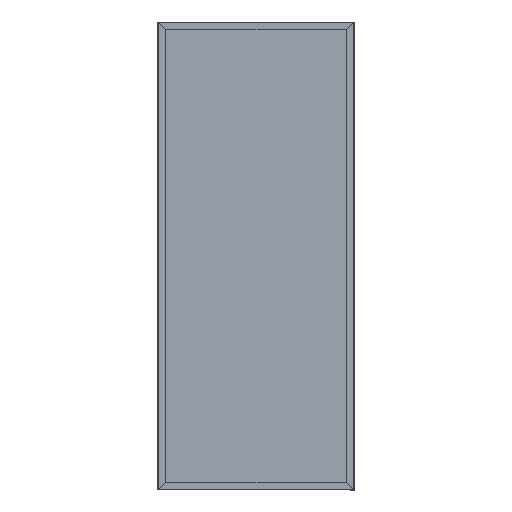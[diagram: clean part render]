
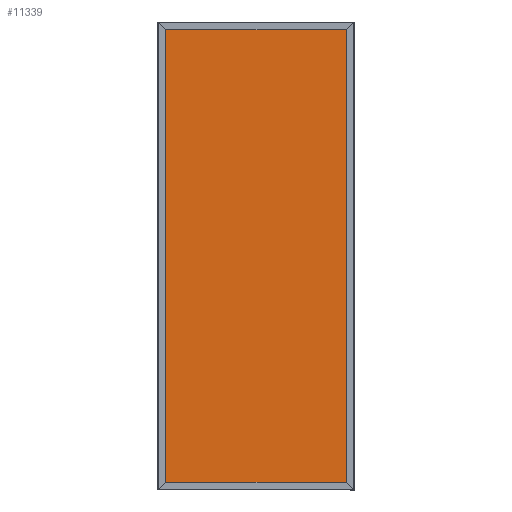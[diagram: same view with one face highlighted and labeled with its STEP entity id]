
A CAD part, top view. The second image highlights one B-rep face of the part: STEP entity #11339.
In plain terms, the highlighted planar face has unit normal (0, 0, 1).
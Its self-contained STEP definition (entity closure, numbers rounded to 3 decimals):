
#22 = DIRECTION ( 'NONE',  ( 0., 1., 0. ) ) ;
#27 = VECTOR ( 'NONE', #11553, 1000. ) ;
#1088 = VECTOR ( 'NONE', #22, 1000. ) ;
#1417 = DIRECTION ( 'NONE',  ( -1., 0., 0. ) ) ;
#3328 = DIRECTION ( 'NONE',  ( 0., 0., -1. ) ) ;
#3557 = EDGE_CURVE ( 'NONE', #18324, #7303, #9788, .T. ) ;
#5207 = LINE ( 'NONE', #26145, #26858 ) ;
#5378 = EDGE_CURVE ( 'NONE', #25580, #24678, #12900, .T. ) ;
#6792 = CARTESIAN_POINT ( 'NONE',  ( -465.07, 1162.2, -13.25 ) ) ;
#7303 = VERTEX_POINT ( 'NONE', #6792 ) ;
#9555 = EDGE_LOOP ( 'NONE', ( #23337, #16988, #15088, #17224 ) ) ;
#9788 = LINE ( 'NONE', #10061, #27 ) ;
#9961 = CARTESIAN_POINT ( 'NONE',  ( 465.07, -1162.2, -13.25 ) ) ;
#10061 = CARTESIAN_POINT ( 'NONE',  ( 0., 1162.2, -13.25 ) ) ;
#11339 = ADVANCED_FACE ( 'NONE', ( #15819 ), #13641, .F. ) ;
#11553 = DIRECTION ( 'NONE',  ( -1., 0., 0. ) ) ;
#12900 = LINE ( 'NONE', #21209, #18990 ) ;
#13641 = PLANE ( 'NONE',  #22114 ) ;
#15088 = ORIENTED_EDGE ( 'NONE', *, *, #18000, .T. ) ;
#15819 = FACE_OUTER_BOUND ( 'NONE', #9555, .T. ) ;
#16146 = CARTESIAN_POINT ( 'NONE',  ( -465.07, -1162.2, -13.25 ) ) ;
#16988 = ORIENTED_EDGE ( 'NONE', *, *, #5378, .F. ) ;
#17224 = ORIENTED_EDGE ( 'NONE', *, *, #3557, .T. ) ;
#17573 = DIRECTION ( 'NONE',  ( 0., 1., 0. ) ) ;
#18000 = EDGE_CURVE ( 'NONE', #25580, #18324, #5207, .T. ) ;
#18324 = VERTEX_POINT ( 'NONE', #20702 ) ;
#18990 = VECTOR ( 'NONE', #19145, 1000. ) ;
#19145 = DIRECTION ( 'NONE',  ( -1., 0., 0. ) ) ;
#19621 = EDGE_CURVE ( 'NONE', #24678, #7303, #24777, .T. ) ;
#20702 = CARTESIAN_POINT ( 'NONE',  ( 465.07, 1162.2, -13.25 ) ) ;
#21209 = CARTESIAN_POINT ( 'NONE',  ( 0., -1162.2, -13.25 ) ) ;
#22114 = AXIS2_PLACEMENT_3D ( 'NONE', #24135, #3328, #1417 ) ;
#22881 = CARTESIAN_POINT ( 'NONE',  ( -465.07, 0., -13.25 ) ) ;
#23337 = ORIENTED_EDGE ( 'NONE', *, *, #19621, .F. ) ;
#24135 = CARTESIAN_POINT ( 'NONE',  ( 0., 0., -13.25 ) ) ;
#24678 = VERTEX_POINT ( 'NONE', #16146 ) ;
#24777 = LINE ( 'NONE', #22881, #1088 ) ;
#25580 = VERTEX_POINT ( 'NONE', #9961 ) ;
#26145 = CARTESIAN_POINT ( 'NONE',  ( 465.07, 0., -13.25 ) ) ;
#26858 = VECTOR ( 'NONE', #17573, 1000. ) ;
